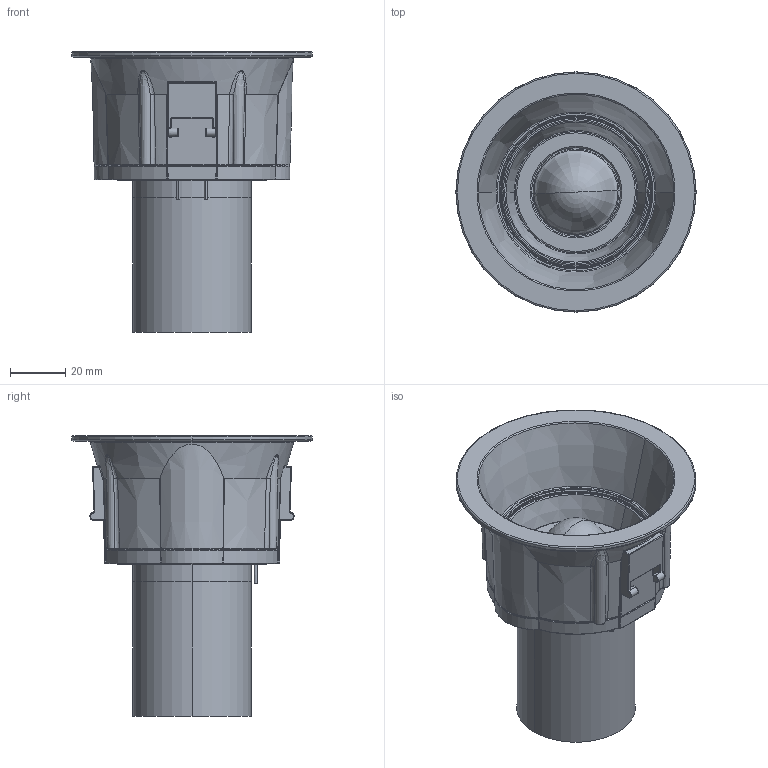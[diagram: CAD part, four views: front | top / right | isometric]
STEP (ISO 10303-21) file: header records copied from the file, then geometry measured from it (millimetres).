
FILE_DESCRIPTION((''),'2;1');
FILE_NAME('INDICE_PRO_T_REG_SW0001','2025-05-15T12:12:12',('elena.baldelli'),(''),'CREO PARAMETRIC BY PTC INC, 2020354','CREO PARAMETRIC BY PTC INC, 2020354','');
FILE_SCHEMA(('CONFIG_CONTROL_DESIGN'));
Length unit declared in the file: millimetre
Products named in the file (1): INDICE_PRO_T_REG_SW0001
Bounding box: 87.1 x 87.1 x 101.83 mm (x, y, z)
Surface area: 40317.4 mm2 (no closed solid volume)
Topology: 0 solids, 20 shells, 448 faces, 1445 edges, 994 vertices
Faces by surface type: cylinder 131, bspline 113, torus 74, plane 62, cone 44, sphere 22, revolution 2
Entity records: 32655 total; most frequent: CARTESIAN_POINT 21710, ORIENTED_EDGE 2330, DIRECTION 1870, EDGE_CURVE 1443, VERTEX_POINT 994, AXIS2_PLACEMENT_3D 794, B_SPLINE_CURVE_WITH_KNOTS 704, EDGE_LOOP 474
